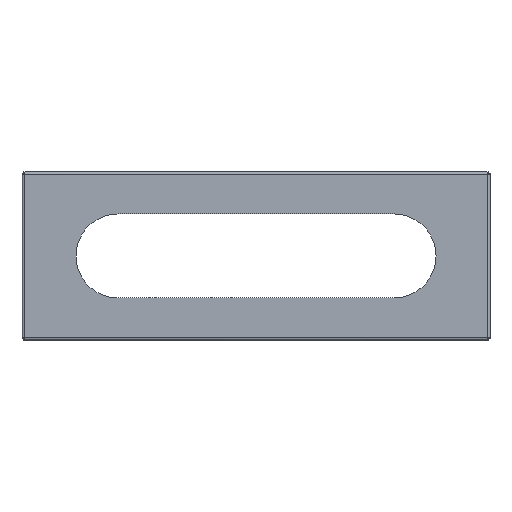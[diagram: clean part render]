
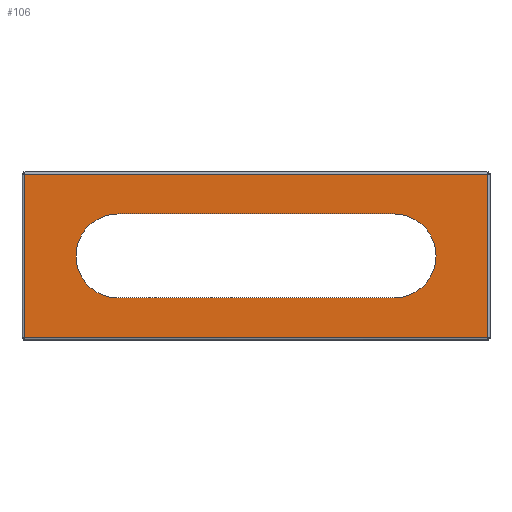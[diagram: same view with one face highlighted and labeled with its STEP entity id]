
A CAD part, top view. The second image highlights one B-rep face of the part: STEP entity #106.
In plain terms, the highlighted planar face has unit normal (0, 0, 1).
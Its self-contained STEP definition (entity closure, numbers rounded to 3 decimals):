
#106 = ADVANCED_FACE( '', ( #281, #282 ), #283, .T. );
#281 = FACE_BOUND( '', #552, .T. );
#282 = FACE_OUTER_BOUND( '', #553, .T. );
#283 = PLANE( '', #554 );
#552 = EDGE_LOOP( '', ( #1117, #1118, #1119, #1120 ) );
#553 = EDGE_LOOP( '', ( #1121, #1122, #1123, #1124 ) );
#554 = AXIS2_PLACEMENT_3D( '', #1125, #1126, #1127 );
#1117 = ORIENTED_EDGE( '', *, *, #1815, .F. );
#1118 = ORIENTED_EDGE( '', *, *, #1816, .F. );
#1119 = ORIENTED_EDGE( '', *, *, #1817, .F. );
#1120 = ORIENTED_EDGE( '', *, *, #1818, .F. );
#1121 = ORIENTED_EDGE( '', *, *, #1819, .F. );
#1122 = ORIENTED_EDGE( '', *, *, #1820, .T. );
#1123 = ORIENTED_EDGE( '', *, *, #1821, .F. );
#1124 = ORIENTED_EDGE( '', *, *, #1822, .F. );
#1125 = CARTESIAN_POINT( '', ( -247.65, -88.9, 0. ) );
#1126 = DIRECTION( '', ( 0., 0., 1. ) );
#1127 = DIRECTION( '', ( 0., -1., 0. ) );
#1815 = EDGE_CURVE( '', #2119, #2120, #2121, .T. );
#1816 = EDGE_CURVE( '', #2122, #2119, #2123, .T. );
#1817 = EDGE_CURVE( '', #2124, #2122, #2125, .T. );
#1818 = EDGE_CURVE( '', #2120, #2124, #2126, .T. );
#1819 = EDGE_CURVE( '', #2127, #2128, #2129, .T. );
#1820 = EDGE_CURVE( '', #2127, #2130, #2131, .T. );
#1821 = EDGE_CURVE( '', #2132, #2130, #2133, .T. );
#1822 = EDGE_CURVE( '', #2128, #2132, #2134, .T. );
#2119 = VERTEX_POINT( '', #2553 );
#2120 = VERTEX_POINT( '', #2554 );
#2121 = LINE( '', #2555, #2556 );
#2122 = VERTEX_POINT( '', #2557 );
#2123 = CIRCLE( '', #2558, 44.45 );
#2124 = VERTEX_POINT( '', #2559 );
#2125 = LINE( '', #2560, #2561 );
#2126 = CIRCLE( '', #2562, 44.45 );
#2127 = VERTEX_POINT( '', #2563 );
#2128 = VERTEX_POINT( '', #2564 );
#2129 = LINE( '', #2565, #2566 );
#2130 = VERTEX_POINT( '', #2567 );
#2131 = LINE( '', #2568, #2569 );
#2132 = VERTEX_POINT( '', #2570 );
#2133 = LINE( '', #2571, #2572 );
#2134 = LINE( '', #2573, #2574 );
#2553 = CARTESIAN_POINT( '', ( 146.05, 44.45, 0. ) );
#2554 = CARTESIAN_POINT( '', ( -146.05, 44.45, 0. ) );
#2555 = CARTESIAN_POINT( '', ( -247.65, 44.45, 0. ) );
#2556 = VECTOR( '', #3430, 1000. );
#2557 = CARTESIAN_POINT( '', ( 146.05, -44.45, 0. ) );
#2558 = AXIS2_PLACEMENT_3D( '', #3431, #3432, #3433 );
#2559 = CARTESIAN_POINT( '', ( -146.05, -44.45, 0. ) );
#2560 = CARTESIAN_POINT( '', ( -247.65, -44.45, 0. ) );
#2561 = VECTOR( '', #3434, 1000. );
#2562 = AXIS2_PLACEMENT_3D( '', #3435, #3436, #3437 );
#2563 = CARTESIAN_POINT( '', ( -245.466, -86.716, 0. ) );
#2564 = CARTESIAN_POINT( '', ( -245.466, 86.716, 0. ) );
#2565 = CARTESIAN_POINT( '', ( -245.466, 86.716, 0. ) );
#2566 = VECTOR( '', #3438, 1000. );
#2567 = CARTESIAN_POINT( '', ( 245.466, -86.716, 0. ) );
#2568 = CARTESIAN_POINT( '', ( -247.65, -86.716, 0. ) );
#2569 = VECTOR( '', #3439, 1000. );
#2570 = CARTESIAN_POINT( '', ( 245.466, 86.716, 0. ) );
#2571 = CARTESIAN_POINT( '', ( 245.466, -86.716, 0. ) );
#2572 = VECTOR( '', #3440, 1000. );
#2573 = CARTESIAN_POINT( '', ( -247.65, 86.716, 0. ) );
#2574 = VECTOR( '', #3441, 1000. );
#3430 = DIRECTION( '', ( -1., 0., 0. ) );
#3431 = CARTESIAN_POINT( '', ( 146.05, 0., 0. ) );
#3432 = DIRECTION( '', ( 0., 0., 1. ) );
#3433 = DIRECTION( '', ( 0., -1., 0. ) );
#3434 = DIRECTION( '', ( 1., 0., 0. ) );
#3435 = CARTESIAN_POINT( '', ( -146.05, 0., 0. ) );
#3436 = DIRECTION( '', ( 0., 0., 1. ) );
#3437 = DIRECTION( '', ( 0., -1., 0. ) );
#3438 = DIRECTION( '', ( 0., 1., 0. ) );
#3439 = DIRECTION( '', ( 1., 0., 0. ) );
#3440 = DIRECTION( '', ( 0., -1., 0. ) );
#3441 = DIRECTION( '', ( 1., 0., 0. ) );
